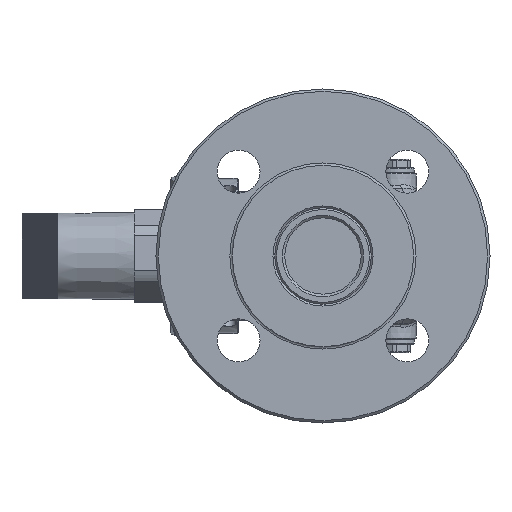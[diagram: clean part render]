
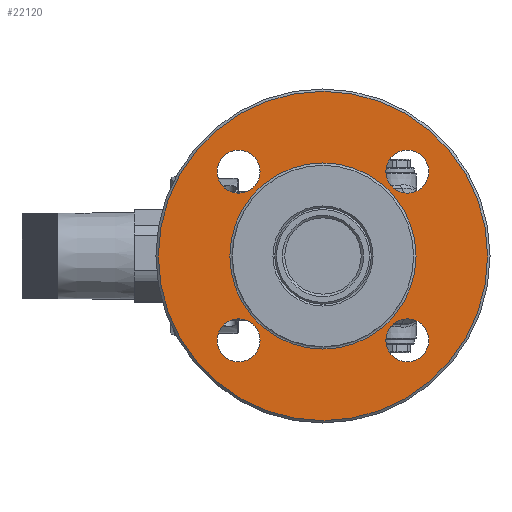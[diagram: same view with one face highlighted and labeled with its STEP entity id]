
A CAD part, left-side view. The second image highlights one B-rep face of the part: STEP entity #22120.
In plain terms, the highlighted planar face has unit normal (-1, 0, 0).
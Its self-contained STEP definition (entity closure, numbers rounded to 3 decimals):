
#1229=FACE_BOUND('',#3551,.T.);
#1230=FACE_BOUND('',#3552,.T.);
#1231=FACE_BOUND('',#3553,.T.);
#1232=FACE_BOUND('',#3554,.T.);
#1233=FACE_BOUND('',#3555,.T.);
#1289=PLANE('',#23661);
#2123=FACE_OUTER_BOUND('',#3550,.T.);
#3550=EDGE_LOOP('',(#15017));
#3551=EDGE_LOOP('',(#15018));
#3552=EDGE_LOOP('',(#15019));
#3553=EDGE_LOOP('',(#15020));
#3554=EDGE_LOOP('',(#15021));
#3555=EDGE_LOOP('',(#15022));
#7967=CIRCLE('',#23512,9.);
#7969=CIRCLE('',#23515,9.);
#7971=CIRCLE('',#23518,9.);
#7973=CIRCLE('',#23521,9.);
#8040=CIRCLE('',#23658,69.);
#8042=CIRCLE('',#23662,39.);
#9062=VERTEX_POINT('',#32173);
#9064=VERTEX_POINT('',#32179);
#9066=VERTEX_POINT('',#32185);
#9068=VERTEX_POINT('',#32191);
#9183=VERTEX_POINT('',#32591);
#9185=VERTEX_POINT('',#32599);
#11214=EDGE_CURVE('',#9062,#9062,#7967,.T.);
#11217=EDGE_CURVE('',#9064,#9064,#7969,.T.);
#11220=EDGE_CURVE('',#9066,#9066,#7971,.T.);
#11223=EDGE_CURVE('',#9068,#9068,#7973,.T.);
#11378=EDGE_CURVE('',#9183,#9183,#8040,.T.);
#11381=EDGE_CURVE('',#9185,#9185,#8042,.T.);
#15017=ORIENTED_EDGE('',*,*,#11378,.F.);
#15018=ORIENTED_EDGE('',*,*,#11381,.F.);
#15019=ORIENTED_EDGE('',*,*,#11223,.T.);
#15020=ORIENTED_EDGE('',*,*,#11220,.T.);
#15021=ORIENTED_EDGE('',*,*,#11217,.T.);
#15022=ORIENTED_EDGE('',*,*,#11214,.T.);
#22120=ADVANCED_FACE('',(#2123,#1229,#1230,#1231,#1232,#1233),#1289,.T.);
#23512=AXIS2_PLACEMENT_3D('',#32175,#25930,#25931);
#23515=AXIS2_PLACEMENT_3D('',#32181,#25937,#25938);
#23518=AXIS2_PLACEMENT_3D('',#32187,#25944,#25945);
#23521=AXIS2_PLACEMENT_3D('',#32193,#25951,#25952);
#23658=AXIS2_PLACEMENT_3D('',#32593,#26277,#26278);
#23661=AXIS2_PLACEMENT_3D('',#32598,#26284,#26285);
#23662=AXIS2_PLACEMENT_3D('',#32600,#26286,#26287);
#25930=DIRECTION('center_axis',(1.,0.,0.));
#25931=DIRECTION('ref_axis',(0.,1.,0.));
#25937=DIRECTION('center_axis',(1.,0.,0.));
#25938=DIRECTION('ref_axis',(0.,0.,
-1.));
#25944=DIRECTION('center_axis',(1.,0.,0.));
#25945=DIRECTION('ref_axis',(0.,0.,
1.));
#25951=DIRECTION('center_axis',(1.,0.,0.));
#25952=DIRECTION('ref_axis',(0.,-1.,0.));
#26277=DIRECTION('center_axis',(1.,0.,0.));
#26278=DIRECTION('ref_axis',(0.,-1.,0.));
#26284=DIRECTION('center_axis',(-1.,0.,0.));
#26285=DIRECTION('ref_axis',(0.,-1.,0.));
#26286=DIRECTION('center_axis',(-1.,0.,0.));
#26287=DIRECTION('ref_axis',(0.,-1.,0.));
#32173=CARTESIAN_POINT('',(-82.,-44.355,35.355));
#32175=CARTESIAN_POINT('Origin',(-82.,-35.355,35.355));
#32179=CARTESIAN_POINT('',(-82.,35.355,44.355));
#32181=CARTESIAN_POINT('Origin',(-82.,35.355,35.355));
#32185=CARTESIAN_POINT('',(-82.,-35.355,-44.355));
#32187=CARTESIAN_POINT('Origin',(-82.,-35.355,-35.355));
#32191=CARTESIAN_POINT('',(-82.,44.355,-35.355));
#32193=CARTESIAN_POINT('Origin',(-82.,35.355,-35.355));
#32591=CARTESIAN_POINT('',(-82.,69.,0.));
#32593=CARTESIAN_POINT('Origin',(-82.,0.,0.));
#32598=CARTESIAN_POINT('Origin',(-82.,0.,0.));
#32599=CARTESIAN_POINT('',(-82.,39.,0.));
#32600=CARTESIAN_POINT('Origin',(-82.,0.,0.));
